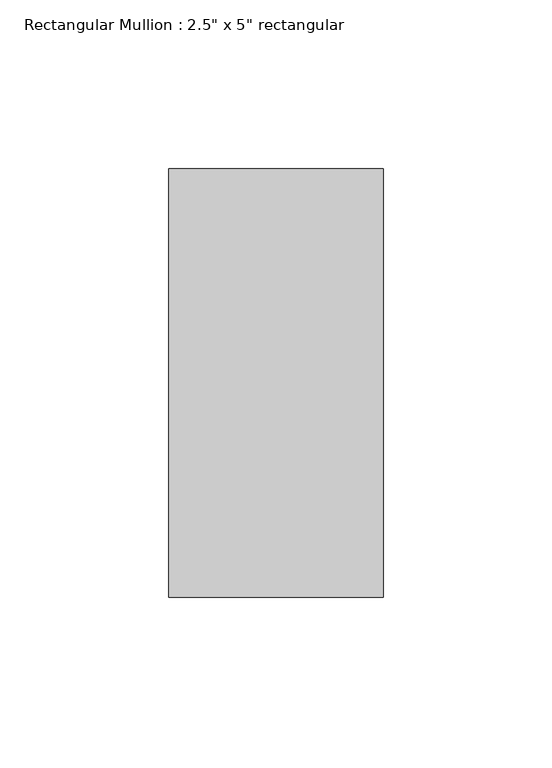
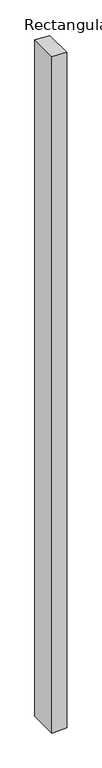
"""IFC4 building model written with IfcOpenShell, lengths in millimetres: member geometry."""

from ifc_helpers import new_model, si_unit, frame, origin, place, context, project, spatial, polyline, outline, extrude, source, transform, mapped, element, save


def member_1f5ccab2(model_context):
    return source(origin(), model_context, "Body", "SweptSolid", [
        extrude(outline(polyline([(0.0, 0.0), (2.7940454, -63.5), (-3073.432099, -63.5), (-3070.6074167, 0.0), (0.0, 0.0)])), frame((0.0, -63.5, 0.0), z_axis=(0.0, 1.0, 0.0), x_axis=(0.0, 0.0, 1.0)), (0.0, 0.0, 1.0), 127.0),
    ])


if __name__ == "__main__":
    model = new_model("IFC4")
    model_context = context("Model", 3, world=origin())
    ifc_project = project(units=[si_unit("LENGTHUNIT", "METRE", prefix="MILLI")], contexts=[model_context])
    site = spatial("IfcSite", under=ifc_project)
    building = spatial("IfcBuilding", under=site)
    placement = place(None, origin())
    member_shape = member_1f5ccab2(model_context)
    element("IfcMember", 1, ObjectType="Rectangular Mullion : 2.5\" x 5\" rectangular", at=placement, inside=building, context=model_context, shape_type="MappedRepresentation", body=[
        mapped(member_shape, transform((0.0, 0.0, 0.0), x_axis=(1.0, 0.0, 0.0), y_axis=(0.0, 1.0, 0.0), z_axis=(0.0, 0.0, 1.0))),
    ])
    save(model, "model.ifc")
